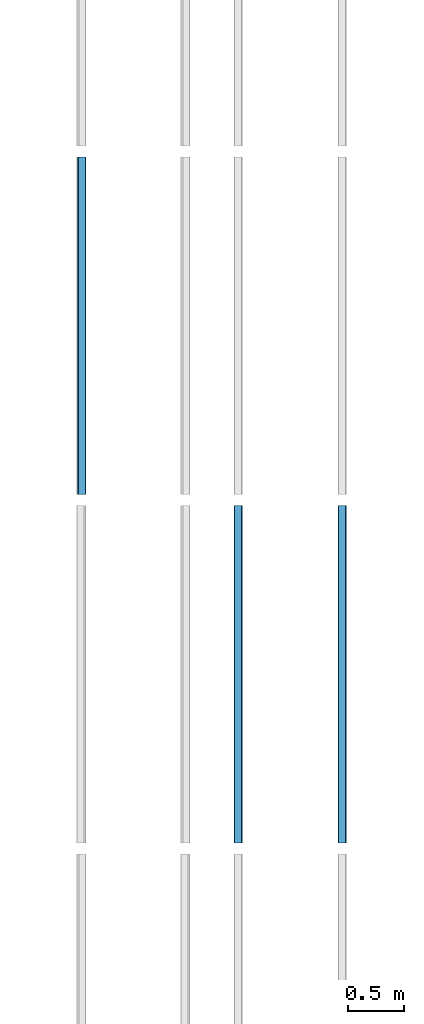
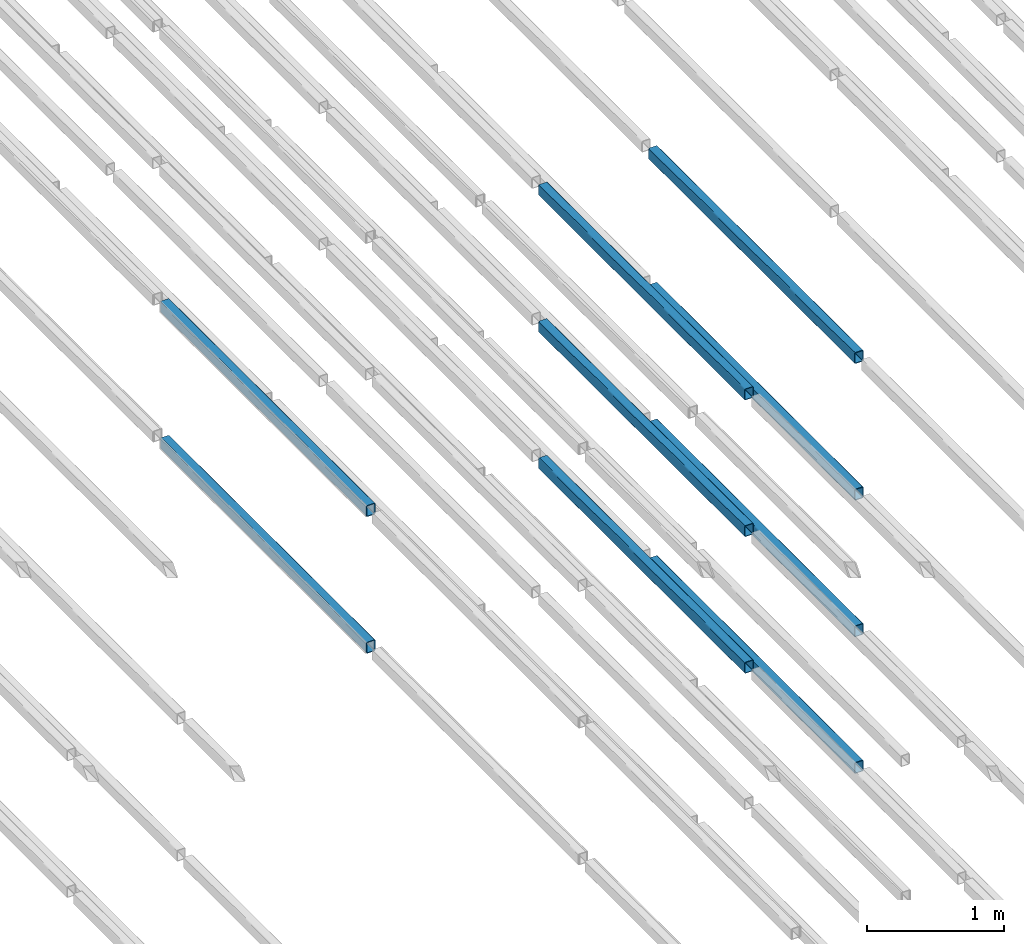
# One storey, part 40 of 290: 9 beams.
"""IFC2X3 building model written with IfcOpenShell, lengths in metres."""

import ifcopenshell
import ifcopenshell.guid

model = None  # the IFC model being written
_history = None  # IfcOwnerHistory: only IFC2X3 demands one
_inside = {}  # id of a spatial element -> (the spatial element, [elements in it])
_under = {}  # id of a project, library or spatial element -> (it, [spatial elements below it])
_declared = {}  # id of a project -> (the project, [libraries it declares])
_typed = {}  # id of a type object -> (the type object, [elements of that type])
_made_of = {}  # id of a material, layer set ... -> (it, [elements and type objects made of it])


def new_model(schema):
    """Start an empty IFC model of exactly this schema.

    Asked for "IFC4X3", IfcOpenShell would pick the latest addendum, in which some entities
    have other attributes; the version numbers below select the first issue.
    IFC2X3 requires an IfcOwnerHistory on every rooted entity: one is made here for all.
    """
    global model, _history
    if schema == "IFC4X3":
        model = ifcopenshell.file(schema_version=(4, 3, 0, 0))
    else:
        model = ifcopenshell.file(schema=schema)
    _inside.clear()
    _under.clear()
    _declared.clear()
    _typed.clear()
    _made_of.clear()
    _history = None
    if model.schema == "IFC2X3":
        org = make("IfcOrganization", Name="unknown")
        user = make(
            "IfcPersonAndOrganization",
            ThePerson=make("IfcPerson", FamilyName="unknown"),
            TheOrganization=org,
        )
        app = make(
            "IfcApplication",
            ApplicationDeveloper=org,
            Version="unknown",
            ApplicationFullName="unknown",
            ApplicationIdentifier="unknown",
        )
        _history = make(
            "IfcOwnerHistory",
            OwningUser=user,
            OwningApplication=app,
            ChangeAction="ADDED",
            CreationDate=0,
        )
    return model


def make(cls, **values):
    """One entity of the class cls with the attributes given. An attribute that is None is left unset."""
    return model.create_entity(
        cls, **{name: value for name, value in values.items() if value is not None}
    )


def entity(cls, *values):
    """Any entity or typed value of the class cls, its attributes in the order of the schema. None: left unset."""
    e = model.create_entity(cls)
    for i, value in enumerate(values):
        if value is not None:
            e[i] = value
    return e


def rooted(cls, **values):
    """An entity with a GlobalId (a new one), such as an element, a storey or a relation."""
    return make(cls, GlobalId=ifcopenshell.guid.new(), OwnerHistory=_history, **values)


def si_unit(unit_type, name, prefix=None):
    """IfcSIUnit, for example si_unit("LENGTHUNIT", "METRE", prefix="MILLI")."""
    return make("IfcSIUnit", UnitType=unit_type, Prefix=prefix, Name=name)


def converted_unit(unit_type, name, factor, base, dimensions=None, offset=None):
    """IfcConversionBasedUnit, such as the inch: factor (a typed value) times the base unit."""
    return make(
        "IfcConversionBasedUnit"
        if offset is None
        else "IfcConversionBasedUnitWithOffset",
        ConversionOffset=offset,
        Dimensions=None
        if dimensions is None
        else entity("IfcDimensionalExponents", *dimensions),
        UnitType=unit_type,
        Name=name,
        ConversionFactor=make(
            "IfcMeasureWithUnit", ValueComponent=factor, UnitComponent=base
        ),
    )


def derived_unit(unit_type, elements):
    """IfcDerivedUnit: a product of units, each with its exponent."""
    return make(
        "IfcDerivedUnit",
        Elements=[
            make("IfcDerivedUnitElement", Unit=unit, Exponent=power)
            for unit, power in elements
        ],
        UnitType=unit_type,
    )


def assignment(units):
    """IfcUnitAssignment: the units of a project."""
    return None if units is None else make("IfcUnitAssignment", Units=units)


def point(xyz):
    """IfcCartesianPoint."""
    return None if xyz is None else make("IfcCartesianPoint", Coordinates=xyz)


def direction(xyz):
    """IfcDirection."""
    return None if xyz is None else make("IfcDirection", DirectionRatios=xyz)


def frame(location, z_axis=None, x_axis=None):
    """IfcAxis2Placement3D, a coordinate frame: its origin and axes. An axis left out is left unset."""
    return make(
        "IfcAxis2Placement3D",
        Location=point(location),
        Axis=direction(z_axis),
        RefDirection=direction(x_axis),
    )


def frame_2d(location, x_axis=None):
    """IfcAxis2Placement2D, a coordinate frame in the plane: its origin and x axis."""
    return make(
        "IfcAxis2Placement2D", Location=point(location), RefDirection=direction(x_axis)
    )


def origin():
    """The frame at (0, 0, 0) with its axes left unset."""
    return frame((0.0, 0.0, 0.0))


def place(relative_to, where):
    """IfcLocalPlacement: puts the frame where relative to a parent placement (None: the world)."""
    return make(
        "IfcLocalPlacement", PlacementRelTo=relative_to, RelativePlacement=where
    )


def context(
    kind, dimensions, precision=None, world=None, true_north=None, identifier=None
):
    """IfcGeometricRepresentationContext, for example the 3D "Model" context."""
    return make(
        "IfcGeometricRepresentationContext",
        ContextIdentifier=identifier,
        ContextType=kind,
        CoordinateSpaceDimension=dimensions,
        Precision=precision,
        WorldCoordinateSystem=world,
        TrueNorth=true_north,
    )


def subcontext(parent, identifier, kind, view, scale=None):
    """IfcGeometricRepresentationSubContext, for example "Body" below "Model"."""
    return make(
        "IfcGeometricRepresentationSubContext",
        ContextIdentifier=identifier,
        ContextType=kind,
        ParentContext=parent,
        TargetScale=scale,
        TargetView=view,
    )


def project(units=None, contexts=None):
    """IfcProject with its units and contexts."""
    return rooted(
        "IfcProject",
        Name="project",
        RepresentationContexts=contexts,
        UnitsInContext=assignment(units),
    )


def spatial(cls, under=None, at=None, **own):
    """A site, building, storey or space (cls), placed at a placement, below another one or the project."""
    s = rooted(cls, ObjectPlacement=at, **own)
    if under is not None:
        _under.setdefault(under.id(), (under, []))[1].append(s)
    return s


def polyline(points):
    """IfcPolyline through the points."""
    return make("IfcPolyline", Points=[point(p) for p in points])


def circle_curve(where, radius):
    """IfcCircle in the frame where."""
    return make("IfcCircle", Position=where, Radius=radius)


def parameter(value):
    """IfcParameterValue: where a trimmed curve begins or ends, as a parameter of its basis curve."""
    return model.create_entity("IfcParameterValue", value)


def trimmed(basis, trim1, trim2, sense, master):
    """IfcTrimmedCurve: the piece of a basis curve between two trims."""
    return make(
        "IfcTrimmedCurve",
        BasisCurve=basis,
        Trim1=trim1,
        Trim2=trim2,
        SenseAgreement=sense,
        MasterRepresentation=master,
    )


def segment(curve, same_sense, transition):
    """IfcCompositeCurveSegment."""
    return make(
        "IfcCompositeCurveSegment",
        Transition=transition,
        SameSense=same_sense,
        ParentCurve=curve,
    )


def composite_curve(segments, self_intersect=None):
    """IfcCompositeCurve: segments joined end to end."""
    return make("IfcCompositeCurve", Segments=segments, SelfIntersect=self_intersect)


def outline(outer, holes=None, kind="AREA"):
    """IfcArbitraryClosedProfileDef: a profile drawn as a closed curve; with holes, ...WithVoids."""
    if holes is None:
        return make("IfcArbitraryClosedProfileDef", ProfileType=kind, OuterCurve=outer)
    return make(
        "IfcArbitraryProfileDefWithVoids",
        ProfileType=kind,
        OuterCurve=outer,
        InnerCurves=holes,
    )


def extrude(swept, where, along, depth):
    """IfcExtrudedAreaSolid: the profile swept, set in the frame where, extruded along a direction by depth."""
    return make(
        "IfcExtrudedAreaSolid",
        SweptArea=swept,
        Position=where,
        ExtrudedDirection=direction(along),
        Depth=depth,
    )


def shape(context_of_items, identifier, shape_type, items):
    """IfcShapeRepresentation: the items that make up one representation, for example the "Body"."""
    return make(
        "IfcShapeRepresentation",
        ContextOfItems=context_of_items,
        RepresentationIdentifier=identifier,
        RepresentationType=shape_type,
        Items=items,
    )


def material(Name=None, Category=None):
    """IfcMaterial."""
    return make("IfcMaterial", Name=Name, Category=Category)


def made_of(thing, what):
    """Note that an element or type object is made of a material, layer set ...; save() writes the relation."""
    if what is not None:
        _made_of.setdefault(what.id(), (what, []))[1].append(thing)
    return thing


def type_object(cls, material=None, **own):
    """A type object (cls), such as IfcWallType, which elements share."""
    return made_of(rooted(cls, **own), material)


def element(
    cls,
    number,
    at=None,
    inside=None,
    cuts=None,
    type_object=None,
    material=None,
    context=None,
    identifier="Body",
    shape_type=None,
    held_by="IfcProductDefinitionShape",
    body=None,
    shapes=None,
    **own,
):
    """One element of the class cls, such as IfcWall. Its Tag is "e" and its number.

    at: its placement. inside: the storey or other place that contains it. cuts: it is an
    opening in that element (IfcRelVoidsElement). A single representation is given by context,
    identifier, shape_type and body (its items); several are given by shapes. held_by: the class
    of the entity that holds the representations. save() writes the other relations.
    """
    e = rooted(cls, Tag="e%d" % number, ObjectPlacement=at, **own)
    if body is not None:
        shapes = [shape(context, identifier, shape_type, body)]
    if shapes is not None:
        e.Representation = make(held_by, Representations=shapes)
    if inside is not None:
        _inside.setdefault(inside.id(), (inside, []))[1].append(e)
    if cuts is not None:
        rooted(
            "IfcRelVoidsElement", RelatingBuildingElement=cuts, RelatedOpeningElement=e
        )
    if type_object is not None:
        _typed.setdefault(type_object.id(), (type_object, []))[1].append(e)
    return made_of(e, material)


def aggregate(whole, parts):
    """IfcRelAggregates: a whole, such as a stair, and the parts it consists of."""
    return rooted("IfcRelAggregates", RelatingObject=whole, RelatedObjects=parts)


def save(model, path):
    """Write the relations noted so far, then the file.

    IfcRelAggregates (storeys below a building ...), IfcRelContainedInSpatialStructure (elements
    in a storey), IfcRelDefinesByType, IfcRelAssociatesMaterial and IfcRelDeclares: one each for
    every whole, place, type object, material and project.
    """
    for whole, parts in _under.values():
        aggregate(whole, parts)
    for where, things in _inside.values():
        rooted(
            "IfcRelContainedInSpatialStructure",
            RelatedElements=things,
            RelatingStructure=where,
        )
    for kind, things in _typed.values():
        rooted("IfcRelDefinesByType", RelatedObjects=things, RelatingType=kind)
    for what, things in _made_of.values():
        rooted("IfcRelAssociatesMaterial", RelatedObjects=things, RelatingMaterial=what)
    for by, libraries in _declared.values():
        rooted("IfcRelDeclares", RelatingContext=by, RelatedDefinitions=libraries)
    model.write(path)


model = new_model("IFC2X3")

# Units and contexts
model_context = context("Model", 3, precision=1e-05, world=origin(), true_north=direction((6.12303176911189e-17, 1.0)))
body_context = subcontext(model_context, "Body", "Model", "MODEL_VIEW")
ifc_project = project(units=[si_unit("LENGTHUNIT", "METRE"), si_unit("AREAUNIT", "SQUARE_METRE"), si_unit("VOLUMEUNIT", "CUBIC_METRE"), converted_unit("PLANEANGLEUNIT", "DEGREE", entity("IfcRatioMeasure", 0.0174532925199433), si_unit("PLANEANGLEUNIT", "RADIAN"), dimensions=[0, 0, 0, 0, 0, 0, 0]), si_unit("MASSUNIT", "GRAM", prefix="KILO"), derived_unit("MASSDENSITYUNIT", [(si_unit("MASSUNIT", "GRAM", prefix="KILO"), 1), (si_unit("LENGTHUNIT", "METRE"), -3)]), derived_unit("MOMENTOFINERTIAUNIT", [(si_unit("LENGTHUNIT", "METRE"), 4)]), si_unit("TIMEUNIT", "SECOND"), si_unit("FREQUENCYUNIT", "HERTZ"), si_unit("THERMODYNAMICTEMPERATUREUNIT", "DEGREE_CELSIUS"), derived_unit("THERMALTRANSMITTANCEUNIT", [(si_unit("MASSUNIT", "GRAM", prefix="KILO"), 1), (si_unit("THERMODYNAMICTEMPERATUREUNIT", "KELVIN"), -1), (si_unit("TIMEUNIT", "SECOND"), -3)]), derived_unit("VOLUMETRICFLOWRATEUNIT", [(si_unit("LENGTHUNIT", "METRE"), 3), (si_unit("TIMEUNIT", "SECOND"), -1)]), si_unit("ELECTRICCURRENTUNIT", "AMPERE"), si_unit("ELECTRICVOLTAGEUNIT", "VOLT"), si_unit("POWERUNIT", "WATT"), si_unit("FORCEUNIT", "NEWTON", prefix="KILO"), si_unit("ILLUMINANCEUNIT", "LUX"), si_unit("LUMINOUSFLUXUNIT", "LUMEN"), si_unit("LUMINOUSINTENSITYUNIT", "CANDELA"), derived_unit("USERDEFINED", [(si_unit("MASSUNIT", "GRAM", prefix="KILO"), -1), (si_unit("LENGTHUNIT", "METRE"), -2), (si_unit("TIMEUNIT", "SECOND"), 3), (si_unit("LUMINOUSFLUXUNIT", "LUMEN"), 1)]), derived_unit("LINEARVELOCITYUNIT", [(si_unit("LENGTHUNIT", "METRE"), 1), (si_unit("TIMEUNIT", "SECOND"), -1)]), si_unit("PRESSUREUNIT", "PASCAL"), derived_unit("USERDEFINED", [(si_unit("LENGTHUNIT", "METRE"), -2), (si_unit("MASSUNIT", "GRAM", prefix="KILO"), 1), (si_unit("TIMEUNIT", "SECOND"), -2)]), derived_unit("LINEARFORCEUNIT", [(si_unit("MASSUNIT", "GRAM", prefix="KILO"), 1), (si_unit("LENGTHUNIT", "METRE"), 1), (si_unit("TIMEUNIT", "SECOND"), -2), (si_unit("LENGTHUNIT", "METRE"), -1)]), derived_unit("PLANARFORCEUNIT", [(si_unit("MASSUNIT", "GRAM", prefix="KILO"), 1), (si_unit("LENGTHUNIT", "METRE"), 1), (si_unit("TIMEUNIT", "SECOND"), -2), (si_unit("LENGTHUNIT", "METRE"), -2)])], contexts=[model_context])

# Site, building, storey
site_placement = place(None, origin())
site = spatial("IfcSite", under=ifc_project, at=site_placement, Name="Default", CompositionType="ELEMENT")
building_placement = place(site_placement, origin())
building = spatial("IfcBuilding", under=site, at=building_placement, CompositionType="ELEMENT")
storey_placement = place(building_placement, frame((0.0, 0.0, 4.0)))
storey = spatial("IfcBuildingStorey", under=building, at=storey_placement, Name="01_OG", CompositionType="ELEMENT", Elevation=4.0)

# Beams
ifc_material = material(Name="Metall - Baustahl S235 blau")
beam_type = type_object("IfcBeamType", Name="RHS Träger (EN 10219-2):RHS 100 x 75 x 5", PredefinedType="NOTDEFINED")
beam_1_placement = place(storey_placement, frame((-200.715111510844, 30.248088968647, 0.0150000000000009), z_axis=(0.0, 0.0, 1.0), x_axis=(0.0, 1.0, 0.0)))
element("IfcBeam", 1, at=beam_1_placement, inside=storey, type_object=beam_type, material=ifc_material, Name="RHS Träger (EN 10219-2):RHS 100 x 75 x 5", ObjectType="RHS Träger (EN 10219-2):RHS 100 x 75 x 5", context=body_context, shape_type="SweptSolid", body=[
    extrude(outline(composite_curve([segment(trimmed(circle_curve(frame_2d((-0.0274999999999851, -0.0400000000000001), x_axis=(1.0, 0.0)), 0.01), [parameter(180.0)], [parameter(270.0)], True, "PARAMETER"), True, "CONTINUOUS"), segment(polyline([(-0.0274999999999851, -0.05), (0.0274999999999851, -0.05)]), True, "CONTINUOUS"), segment(trimmed(circle_curve(frame_2d((0.0274999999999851, -0.0400000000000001), x_axis=(1.0, 0.0)), 0.01), [parameter(270.0)], [parameter(5.08888749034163e-14)], True, "PARAMETER"), True, "CONTINUOUS"), segment(polyline([(0.0375000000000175, -0.0400000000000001), (0.0375000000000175, 0.0400000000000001)]), True, "CONTINUOUS"), segment(trimmed(circle_curve(frame_2d((0.0274999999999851, 0.0400000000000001), x_axis=(1.0, 0.0)), 0.01), [parameter(360.0)], [parameter(89.9999999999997)], True, "PARAMETER"), True, "CONTINUOUS"), segment(polyline([(0.0274999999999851, 0.05), (-0.0274999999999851, 0.05)]), True, "CONTINUOUS"), segment(trimmed(circle_curve(frame_2d((-0.0274999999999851, 0.0400000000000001), x_axis=(1.0, 0.0)), 0.01), [parameter(90.0000000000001)], [parameter(180.0)], True, "PARAMETER"), True, "CONTINUOUS"), segment(polyline([(-0.0374999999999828, 0.0400000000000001), (-0.0374999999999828, -0.0400000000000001)]), True, "CONTINUOUS")], self_intersect=False), holes=[composite_curve([segment(polyline([(0.0274999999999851, -0.0450000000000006), (-0.0274999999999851, -0.0450000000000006)]), True, "CONTINUOUS"), segment(trimmed(circle_curve(frame_2d((-0.0274999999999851, -0.0400000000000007), x_axis=(1.0, 0.0)), 0.005), [parameter(180.0)], [parameter(270.0)], True, "PARAMETER"), False, "CONTINUOUS"), segment(polyline([(-0.0325000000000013, -0.0400000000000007), (-0.0325000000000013, 0.039999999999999)]), True, "CONTINUOUS"), segment(trimmed(circle_curve(frame_2d((-0.0274999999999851, 0.039999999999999), x_axis=(1.0, 0.0)), 0.005), [parameter(90.0000000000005)], [parameter(180.0)], True, "PARAMETER"), False, "CONTINUOUS"), segment(polyline([(-0.0274999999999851, 0.044999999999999), (0.0274999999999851, 0.044999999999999)]), True, "CONTINUOUS"), segment(trimmed(circle_curve(frame_2d((0.0274999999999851, 0.039999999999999), x_axis=(1.0, 0.0)), 0.005), [parameter(0.0)], [parameter(90.0000000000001)], True, "PARAMETER"), False, "CONTINUOUS"), segment(polyline([(0.0325000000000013, 0.039999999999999), (0.0325000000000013, -0.0400000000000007)]), True, "CONTINUOUS"), segment(trimmed(circle_curve(frame_2d((0.0274999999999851, -0.0400000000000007), x_axis=(1.0, 0.0)), 0.005), [parameter(270.0)], [parameter(4.07110999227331e-13)], True, "PARAMETER"), False, "CONTINUOUS")], self_intersect=False)]), frame((0.000100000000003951, 0.0375000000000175, -0.0500000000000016), z_axis=(1.0, 0.0, 0.0), x_axis=(0.0, -1.0, 0.0)), (0.0, 0.0, 1.0), 2.9998),
])
beam_2_placement = place(storey_placement, frame((-200.715111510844, 30.248088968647, 1.23), z_axis=(0.0, 0.0, 1.0), x_axis=(0.0, 1.0, 0.0)))
element("IfcBeam", 2, at=beam_2_placement, inside=storey, type_object=beam_type, material=ifc_material, Name="RHS Träger (EN 10219-2):RHS 100 x 75 x 5", ObjectType="RHS Träger (EN 10219-2):RHS 100 x 75 x 5", context=body_context, shape_type="SweptSolid", body=[
    extrude(outline(composite_curve([segment(trimmed(circle_curve(frame_2d((-0.0274999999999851, -0.0399999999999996), x_axis=(1.0, 0.0)), 0.01), [parameter(180.0)], [parameter(270.0)], True, "PARAMETER"), True, "CONTINUOUS"), segment(polyline([(-0.0274999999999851, -0.0499999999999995), (0.0274999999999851, -0.0499999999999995)]), True, "CONTINUOUS"), segment(trimmed(circle_curve(frame_2d((0.0274999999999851, -0.0399999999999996), x_axis=(1.0, 0.0)), 0.01), [parameter(270.0)], [parameter(5.08888749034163e-14)], True, "PARAMETER"), True, "CONTINUOUS"), segment(polyline([(0.0375000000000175, -0.0399999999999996), (0.0375000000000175, 0.0399999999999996)]), True, "CONTINUOUS"), segment(trimmed(circle_curve(frame_2d((0.0274999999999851, 0.0399999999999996), x_axis=(1.0, 0.0)), 0.01), [parameter(360.0)], [parameter(89.9999999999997)], True, "PARAMETER"), True, "CONTINUOUS"), segment(polyline([(0.0274999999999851, 0.0500000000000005), (-0.0274999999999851, 0.0500000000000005)]), True, "CONTINUOUS"), segment(trimmed(circle_curve(frame_2d((-0.0274999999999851, 0.0399999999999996), x_axis=(1.0, 0.0)), 0.01), [parameter(90.0000000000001)], [parameter(180.0)], True, "PARAMETER"), True, "CONTINUOUS"), segment(polyline([(-0.0374999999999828, 0.0399999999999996), (-0.0374999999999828, -0.0399999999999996)]), True, "CONTINUOUS")], self_intersect=False), holes=[composite_curve([segment(polyline([(0.0274999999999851, -0.0450000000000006), (-0.0274999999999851, -0.0450000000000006)]), True, "CONTINUOUS"), segment(trimmed(circle_curve(frame_2d((-0.0274999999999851, -0.0400000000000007), x_axis=(1.0, 0.0)), 0.005), [parameter(180.0)], [parameter(270.0)], True, "PARAMETER"), False, "CONTINUOUS"), segment(polyline([(-0.0325000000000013, -0.0400000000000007), (-0.0325000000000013, 0.0399999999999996)]), True, "CONTINUOUS"), segment(trimmed(circle_curve(frame_2d((-0.0274999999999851, 0.0399999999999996), x_axis=(1.0, 0.0)), 0.005), [parameter(90.0000000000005)], [parameter(180.0)], True, "PARAMETER"), False, "CONTINUOUS"), segment(polyline([(-0.0274999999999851, 0.0449999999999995), (0.0274999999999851, 0.0449999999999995)]), True, "CONTINUOUS"), segment(trimmed(circle_curve(frame_2d((0.0274999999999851, 0.0399999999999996), x_axis=(1.0, 0.0)), 0.005), [parameter(0.0)], [parameter(90.0000000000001)], True, "PARAMETER"), False, "CONTINUOUS"), segment(polyline([(0.0325000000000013, 0.0399999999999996), (0.0325000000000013, -0.0400000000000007)]), True, "CONTINUOUS"), segment(trimmed(circle_curve(frame_2d((0.0274999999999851, -0.0400000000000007), x_axis=(1.0, 0.0)), 0.005), [parameter(270.0)], [parameter(4.07110999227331e-13)], True, "PARAMETER"), False, "CONTINUOUS")], self_intersect=False)]), frame((0.000100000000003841, 0.0375000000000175, -0.0500000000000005), z_axis=(1.0, 0.0, 0.0), x_axis=(0.0, -1.0, 0.0)), (0.0, 0.0, 1.0), 2.9998),
])
beam_3_placement = place(storey_placement, frame((-200.715111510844, 30.248088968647, 2.445), z_axis=(0.0, 0.0, 1.0), x_axis=(0.0, 1.0, 0.0)))
element("IfcBeam", 3, at=beam_3_placement, inside=storey, type_object=beam_type, material=ifc_material, Name="RHS Träger (EN 10219-2):RHS 100 x 75 x 5", ObjectType="RHS Träger (EN 10219-2):RHS 100 x 75 x 5", context=body_context, shape_type="SweptSolid", body=[
    extrude(outline(composite_curve([segment(trimmed(circle_curve(frame_2d((-0.0274999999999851, -0.0399999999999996), x_axis=(1.0, 0.0)), 0.01), [parameter(180.0)], [parameter(270.0)], True, "PARAMETER"), True, "CONTINUOUS"), segment(polyline([(-0.0274999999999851, -0.0499999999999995), (0.0274999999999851, -0.0499999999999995)]), True, "CONTINUOUS"), segment(trimmed(circle_curve(frame_2d((0.0274999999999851, -0.0399999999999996), x_axis=(1.0, 0.0)), 0.01), [parameter(270.0)], [parameter(5.08888749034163e-14)], True, "PARAMETER"), True, "CONTINUOUS"), segment(polyline([(0.0375000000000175, -0.0399999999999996), (0.0375000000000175, 0.0399999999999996)]), True, "CONTINUOUS"), segment(trimmed(circle_curve(frame_2d((0.0274999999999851, 0.0399999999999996), x_axis=(1.0, 0.0)), 0.01), [parameter(360.0)], [parameter(89.9999999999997)], True, "PARAMETER"), True, "CONTINUOUS"), segment(polyline([(0.0274999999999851, 0.0500000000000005), (-0.0274999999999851, 0.0500000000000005)]), True, "CONTINUOUS"), segment(trimmed(circle_curve(frame_2d((-0.0274999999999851, 0.0399999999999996), x_axis=(1.0, 0.0)), 0.01), [parameter(90.0000000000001)], [parameter(180.0)], True, "PARAMETER"), True, "CONTINUOUS"), segment(polyline([(-0.0374999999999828, 0.0399999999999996), (-0.0374999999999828, -0.0399999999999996)]), True, "CONTINUOUS")], self_intersect=False), holes=[composite_curve([segment(polyline([(0.0274999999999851, -0.0450000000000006), (-0.0274999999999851, -0.0450000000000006)]), True, "CONTINUOUS"), segment(trimmed(circle_curve(frame_2d((-0.0274999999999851, -0.0400000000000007), x_axis=(1.0, 0.0)), 0.005), [parameter(180.0)], [parameter(270.0)], True, "PARAMETER"), False, "CONTINUOUS"), segment(polyline([(-0.0325000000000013, -0.0400000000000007), (-0.0325000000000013, 0.0399999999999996)]), True, "CONTINUOUS"), segment(trimmed(circle_curve(frame_2d((-0.0274999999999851, 0.0399999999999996), x_axis=(1.0, 0.0)), 0.005), [parameter(90.0000000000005)], [parameter(180.0)], True, "PARAMETER"), False, "CONTINUOUS"), segment(polyline([(-0.0274999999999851, 0.0449999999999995), (0.0274999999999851, 0.0449999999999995)]), True, "CONTINUOUS"), segment(trimmed(circle_curve(frame_2d((0.0274999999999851, 0.0399999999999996), x_axis=(1.0, 0.0)), 0.005), [parameter(0.0)], [parameter(90.0000000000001)], True, "PARAMETER"), False, "CONTINUOUS"), segment(polyline([(0.0325000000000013, 0.0399999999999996), (0.0325000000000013, -0.0400000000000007)]), True, "CONTINUOUS"), segment(trimmed(circle_curve(frame_2d((0.0274999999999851, -0.0400000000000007), x_axis=(1.0, 0.0)), 0.005), [parameter(270.0)], [parameter(4.07110999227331e-13)], True, "PARAMETER"), False, "CONTINUOUS")], self_intersect=False)]), frame((0.000100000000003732, 0.0375000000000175, -0.0500000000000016), z_axis=(1.0, 0.0, 0.0), x_axis=(0.0, -1.0, 0.0)), (0.0, 0.0, 1.0), 2.9998),
])
beam_4_placement = place(storey_placement, frame((-199.865111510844, 30.248088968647, -1.2), z_axis=(0.0, 0.0, 1.0), x_axis=(0.0, 1.0, 0.0)))
element("IfcBeam", 4, at=beam_4_placement, inside=storey, type_object=beam_type, material=ifc_material, Name="RHS Träger (EN 10219-2):RHS 100 x 75 x 5", ObjectType="RHS Träger (EN 10219-2):RHS 100 x 75 x 5", context=body_context, shape_type="SweptSolid", body=[
    extrude(outline(composite_curve([segment(polyline([(-0.0400000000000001, -0.0374999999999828), (0.0400000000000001, -0.0374999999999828)]), True, "CONTINUOUS"), segment(trimmed(circle_curve(frame_2d((0.0400000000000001, -0.0274999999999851), x_axis=(0.0, 1.0)), 0.01), [parameter(180.0)], [parameter(270.0)], True, "PARAMETER"), True, "CONTINUOUS"), segment(polyline([(0.05, -0.0274999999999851), (0.05, 0.0274999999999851)]), True, "CONTINUOUS"), segment(trimmed(circle_curve(frame_2d((0.0400000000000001, 0.0274999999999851), x_axis=(0.0, 1.0)), 0.01), [parameter(270.0)], [parameter(4.07110999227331e-13)], True, "PARAMETER"), True, "CONTINUOUS"), segment(polyline([(0.0400000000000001, 0.0375000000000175), (-0.0400000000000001, 0.0375000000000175)]), True, "CONTINUOUS"), segment(trimmed(circle_curve(frame_2d((-0.0400000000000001, 0.0274999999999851), x_axis=(0.0, 1.0)), 0.01), [parameter(360.0)], [parameter(90.0000000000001)], True, "PARAMETER"), True, "CONTINUOUS"), segment(polyline([(-0.05, 0.0274999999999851), (-0.05, -0.0274999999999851)]), True, "CONTINUOUS"), segment(trimmed(circle_curve(frame_2d((-0.0400000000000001, -0.0274999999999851), x_axis=(0.0, 1.0)), 0.01), [parameter(90.0000000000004)], [parameter(180.0)], True, "PARAMETER"), True, "CONTINUOUS")], self_intersect=False), holes=[composite_curve([segment(trimmed(circle_curve(frame_2d((-0.0400000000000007, 0.0274999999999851), x_axis=(0.0, 1.0)), 0.005), [parameter(360.0)], [parameter(89.9999999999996)], True, "PARAMETER"), False, "CONTINUOUS"), segment(polyline([(-0.0400000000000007, 0.0325000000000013), (0.039999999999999, 0.0325000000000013)]), True, "CONTINUOUS"), segment(trimmed(circle_curve(frame_2d((0.039999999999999, 0.0274999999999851), x_axis=(0.0, 1.0)), 0.005), [parameter(270.0)], [parameter(0.0)], True, "PARAMETER"), False, "CONTINUOUS"), segment(polyline([(0.044999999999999, 0.0274999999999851), (0.044999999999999, -0.0274999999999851)]), True, "CONTINUOUS"), segment(trimmed(circle_curve(frame_2d((0.039999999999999, -0.0274999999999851), x_axis=(0.0, 1.0)), 0.005), [parameter(180.0)], [parameter(269.999999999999)], True, "PARAMETER"), False, "CONTINUOUS"), segment(polyline([(0.039999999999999, -0.0325000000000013), (-0.0400000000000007, -0.0325000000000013)]), True, "CONTINUOUS"), segment(trimmed(circle_curve(frame_2d((-0.0400000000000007, -0.0274999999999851), x_axis=(0.0, 1.0)), 0.005), [parameter(90.0000000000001)], [parameter(180.0)], True, "PARAMETER"), False, "CONTINUOUS"), segment(polyline([(-0.0450000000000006, -0.0274999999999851), (-0.0450000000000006, 0.0274999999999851)]), True, "CONTINUOUS")], self_intersect=False)]), frame((0.000100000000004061, -0.0375000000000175, -0.0500000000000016), z_axis=(1.0, 0.0, 0.0), x_axis=(0.0, 0.0, -1.0)), (0.0, 0.0, 1.0), 2.9998),
])
beam_5_placement = place(storey_placement, frame((-199.865111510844, 30.248088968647, 0.0150000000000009), z_axis=(0.0, 0.0, 1.0), x_axis=(0.0, 1.0, 0.0)))
element("IfcBeam", 5, at=beam_5_placement, inside=storey, type_object=beam_type, material=ifc_material, Name="RHS Träger (EN 10219-2):RHS 100 x 75 x 5", ObjectType="RHS Träger (EN 10219-2):RHS 100 x 75 x 5", context=body_context, shape_type="SweptSolid", body=[
    extrude(outline(composite_curve([segment(polyline([(-0.0400000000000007, -0.0374999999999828), (0.0399999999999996, -0.0374999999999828)]), True, "CONTINUOUS"), segment(trimmed(circle_curve(frame_2d((0.0399999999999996, -0.0274999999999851), x_axis=(0.0, 1.0)), 0.01), [parameter(180.0)], [parameter(270.0)], True, "PARAMETER"), True, "CONTINUOUS"), segment(polyline([(0.0499999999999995, -0.0274999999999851), (0.0499999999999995, 0.0274999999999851)]), True, "CONTINUOUS"), segment(trimmed(circle_curve(frame_2d((0.0399999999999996, 0.0274999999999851), x_axis=(0.0, 1.0)), 0.01), [parameter(270.0)], [parameter(4.07110999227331e-13)], True, "PARAMETER"), True, "CONTINUOUS"), segment(polyline([(0.0399999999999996, 0.0375000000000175), (-0.0400000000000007, 0.0375000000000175)]), True, "CONTINUOUS"), segment(trimmed(circle_curve(frame_2d((-0.0400000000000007, 0.0274999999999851), x_axis=(0.0, 1.0)), 0.01), [parameter(360.0)], [parameter(90.0000000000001)], True, "PARAMETER"), True, "CONTINUOUS"), segment(polyline([(-0.0500000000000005, 0.0274999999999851), (-0.0500000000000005, -0.0274999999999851)]), True, "CONTINUOUS"), segment(trimmed(circle_curve(frame_2d((-0.0400000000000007, -0.0274999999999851), x_axis=(0.0, 1.0)), 0.01), [parameter(90.0000000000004)], [parameter(180.0)], True, "PARAMETER"), True, "CONTINUOUS")], self_intersect=False), holes=[composite_curve([segment(trimmed(circle_curve(frame_2d((-0.0400000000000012, 0.0274999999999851), x_axis=(0.0, 1.0)), 0.005), [parameter(360.0)], [parameter(89.9999999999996)], True, "PARAMETER"), False, "CONTINUOUS"), segment(polyline([(-0.0400000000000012, 0.0325000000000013), (0.0399999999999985, 0.0325000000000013)]), True, "CONTINUOUS"), segment(trimmed(circle_curve(frame_2d((0.0399999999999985, 0.0274999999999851), x_axis=(0.0, 1.0)), 0.005), [parameter(270.0)], [parameter(0.0)], True, "PARAMETER"), False, "CONTINUOUS"), segment(polyline([(0.0449999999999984, 0.0274999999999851), (0.0449999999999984, -0.0274999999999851)]), True, "CONTINUOUS"), segment(trimmed(circle_curve(frame_2d((0.0399999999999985, -0.0274999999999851), x_axis=(0.0, 1.0)), 0.005), [parameter(180.0)], [parameter(269.999999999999)], True, "PARAMETER"), False, "CONTINUOUS"), segment(polyline([(0.0399999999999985, -0.0325000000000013), (-0.0400000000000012, -0.0325000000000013)]), True, "CONTINUOUS"), segment(trimmed(circle_curve(frame_2d((-0.0400000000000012, -0.0274999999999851), x_axis=(0.0, 1.0)), 0.005), [parameter(90.0000000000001)], [parameter(180.0)], True, "PARAMETER"), False, "CONTINUOUS"), segment(polyline([(-0.0450000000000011, -0.0274999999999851), (-0.0450000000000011, 0.0274999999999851)]), True, "CONTINUOUS")], self_intersect=False)]), frame((0.000100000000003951, -0.0375000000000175, -0.0500000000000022), z_axis=(1.0, 0.0, 0.0), x_axis=(0.0, 0.0, -1.0)), (0.0, 0.0, 1.0), 2.9998),
])
beam_6_placement = place(storey_placement, frame((-199.865111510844, 30.248088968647, 1.23), z_axis=(0.0, 0.0, 1.0), x_axis=(0.0, 1.0, 0.0)))
element("IfcBeam", 6, at=beam_6_placement, inside=storey, type_object=beam_type, material=ifc_material, Name="RHS Träger (EN 10219-2):RHS 100 x 75 x 5", ObjectType="RHS Träger (EN 10219-2):RHS 100 x 75 x 5", context=body_context, shape_type="SweptSolid", body=[
    extrude(outline(composite_curve([segment(polyline([(-0.0399999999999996, -0.0374999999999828), (0.0399999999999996, -0.0374999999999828)]), True, "CONTINUOUS"), segment(trimmed(circle_curve(frame_2d((0.0399999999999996, -0.0274999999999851), x_axis=(0.0, 1.0)), 0.01), [parameter(180.0)], [parameter(270.0)], True, "PARAMETER"), True, "CONTINUOUS"), segment(polyline([(0.0500000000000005, -0.0274999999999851), (0.0500000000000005, 0.0274999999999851)]), True, "CONTINUOUS"), segment(trimmed(circle_curve(frame_2d((0.0399999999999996, 0.0274999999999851), x_axis=(0.0, 1.0)), 0.01), [parameter(270.0)], [parameter(4.07110999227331e-13)], True, "PARAMETER"), True, "CONTINUOUS"), segment(polyline([(0.0399999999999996, 0.0375000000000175), (-0.0399999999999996, 0.0375000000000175)]), True, "CONTINUOUS"), segment(trimmed(circle_curve(frame_2d((-0.0399999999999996, 0.0274999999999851), x_axis=(0.0, 1.0)), 0.01), [parameter(360.0)], [parameter(90.0000000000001)], True, "PARAMETER"), True, "CONTINUOUS"), segment(polyline([(-0.0499999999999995, 0.0274999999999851), (-0.0499999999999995, -0.0274999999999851)]), True, "CONTINUOUS"), segment(trimmed(circle_curve(frame_2d((-0.0399999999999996, -0.0274999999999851), x_axis=(0.0, 1.0)), 0.01), [parameter(90.0000000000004)], [parameter(180.0)], True, "PARAMETER"), True, "CONTINUOUS")], self_intersect=False), holes=[composite_curve([segment(trimmed(circle_curve(frame_2d((-0.0400000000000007, 0.0274999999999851), x_axis=(0.0, 1.0)), 0.005), [parameter(360.0)], [parameter(89.9999999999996)], True, "PARAMETER"), False, "CONTINUOUS"), segment(polyline([(-0.0400000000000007, 0.0325000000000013), (0.0399999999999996, 0.0325000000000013)]), True, "CONTINUOUS"), segment(trimmed(circle_curve(frame_2d((0.0399999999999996, 0.0274999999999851), x_axis=(0.0, 1.0)), 0.005), [parameter(270.0)], [parameter(0.0)], True, "PARAMETER"), False, "CONTINUOUS"), segment(polyline([(0.0449999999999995, 0.0274999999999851), (0.0449999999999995, -0.0274999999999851)]), True, "CONTINUOUS"), segment(trimmed(circle_curve(frame_2d((0.0399999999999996, -0.0274999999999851), x_axis=(0.0, 1.0)), 0.005), [parameter(180.0)], [parameter(269.999999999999)], True, "PARAMETER"), False, "CONTINUOUS"), segment(polyline([(0.0399999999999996, -0.0325000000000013), (-0.0400000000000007, -0.0325000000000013)]), True, "CONTINUOUS"), segment(trimmed(circle_curve(frame_2d((-0.0400000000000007, -0.0274999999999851), x_axis=(0.0, 1.0)), 0.005), [parameter(90.0000000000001)], [parameter(180.0)], True, "PARAMETER"), False, "CONTINUOUS"), segment(polyline([(-0.0450000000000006, -0.0274999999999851), (-0.0450000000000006, 0.0274999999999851)]), True, "CONTINUOUS")], self_intersect=False)]), frame((0.000100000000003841, -0.0375000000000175, -0.0500000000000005), z_axis=(1.0, 0.0, 0.0), x_axis=(0.0, 0.0, -1.0)), (0.0, 0.0, 1.0), 2.9998),
])
beam_7_placement = place(storey_placement, frame((-199.865111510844, 30.248088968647, 2.445), z_axis=(0.0, 0.0, 1.0), x_axis=(0.0, 1.0, 0.0)))
element("IfcBeam", 7, at=beam_7_placement, inside=storey, type_object=beam_type, material=ifc_material, Name="RHS Träger (EN 10219-2):RHS 100 x 75 x 5", ObjectType="RHS Träger (EN 10219-2):RHS 100 x 75 x 5", context=body_context, shape_type="SweptSolid", body=[
    extrude(outline(composite_curve([segment(polyline([(-0.0399999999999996, -0.0374999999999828), (0.0399999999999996, -0.0374999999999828)]), True, "CONTINUOUS"), segment(trimmed(circle_curve(frame_2d((0.0399999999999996, -0.0274999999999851), x_axis=(0.0, 1.0)), 0.01), [parameter(180.0)], [parameter(270.0)], True, "PARAMETER"), True, "CONTINUOUS"), segment(polyline([(0.0500000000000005, -0.0274999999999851), (0.0500000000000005, 0.0274999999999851)]), True, "CONTINUOUS"), segment(trimmed(circle_curve(frame_2d((0.0399999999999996, 0.0274999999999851), x_axis=(0.0, 1.0)), 0.01), [parameter(270.0)], [parameter(4.07110999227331e-13)], True, "PARAMETER"), True, "CONTINUOUS"), segment(polyline([(0.0399999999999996, 0.0375000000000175), (-0.0399999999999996, 0.0375000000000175)]), True, "CONTINUOUS"), segment(trimmed(circle_curve(frame_2d((-0.0399999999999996, 0.0274999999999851), x_axis=(0.0, 1.0)), 0.01), [parameter(360.0)], [parameter(90.0000000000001)], True, "PARAMETER"), True, "CONTINUOUS"), segment(polyline([(-0.0499999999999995, 0.0274999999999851), (-0.0499999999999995, -0.0274999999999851)]), True, "CONTINUOUS"), segment(trimmed(circle_curve(frame_2d((-0.0399999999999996, -0.0274999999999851), x_axis=(0.0, 1.0)), 0.01), [parameter(90.0000000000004)], [parameter(180.0)], True, "PARAMETER"), True, "CONTINUOUS")], self_intersect=False), holes=[composite_curve([segment(trimmed(circle_curve(frame_2d((-0.0400000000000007, 0.0274999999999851), x_axis=(0.0, 1.0)), 0.005), [parameter(360.0)], [parameter(89.9999999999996)], True, "PARAMETER"), False, "CONTINUOUS"), segment(polyline([(-0.0400000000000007, 0.0325000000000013), (0.0399999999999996, 0.0325000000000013)]), True, "CONTINUOUS"), segment(trimmed(circle_curve(frame_2d((0.0399999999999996, 0.0274999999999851), x_axis=(0.0, 1.0)), 0.005), [parameter(270.0)], [parameter(0.0)], True, "PARAMETER"), False, "CONTINUOUS"), segment(polyline([(0.0449999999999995, 0.0274999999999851), (0.0449999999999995, -0.0274999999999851)]), True, "CONTINUOUS"), segment(trimmed(circle_curve(frame_2d((0.0399999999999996, -0.0274999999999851), x_axis=(0.0, 1.0)), 0.005), [parameter(180.0)], [parameter(269.999999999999)], True, "PARAMETER"), False, "CONTINUOUS"), segment(polyline([(0.0399999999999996, -0.0325000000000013), (-0.0400000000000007, -0.0325000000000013)]), True, "CONTINUOUS"), segment(trimmed(circle_curve(frame_2d((-0.0400000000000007, -0.0274999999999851), x_axis=(0.0, 1.0)), 0.005), [parameter(90.0000000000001)], [parameter(180.0)], True, "PARAMETER"), False, "CONTINUOUS"), segment(polyline([(-0.0450000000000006, -0.0274999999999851), (-0.0450000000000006, 0.0274999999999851)]), True, "CONTINUOUS")], self_intersect=False)]), frame((0.000100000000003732, -0.0375000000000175, -0.0500000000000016), z_axis=(1.0, 0.0, 0.0), x_axis=(0.0, 0.0, -1.0)), (0.0, 0.0, 1.0), 2.9998),
])
beam_8_placement = place(storey_placement, frame((-202.105111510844, 33.348088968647, -1.2), z_axis=(0.0, 0.0, 1.0), x_axis=(0.0, 1.0, 0.0)))
element("IfcBeam", 8, at=beam_8_placement, inside=storey, type_object=beam_type, material=ifc_material, Name="RHS Träger (EN 10219-2):RHS 100 x 75 x 5", ObjectType="RHS Träger (EN 10219-2):RHS 100 x 75 x 5", context=body_context, shape_type="SweptSolid", body=[
    extrude(outline(composite_curve([segment(trimmed(circle_curve(frame_2d((-0.0274999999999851, -0.0400000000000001), x_axis=(1.0, 0.0)), 0.01), [parameter(180.0)], [parameter(270.0)], True, "PARAMETER"), True, "CONTINUOUS"), segment(polyline([(-0.0274999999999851, -0.05), (0.0274999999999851, -0.05)]), True, "CONTINUOUS"), segment(trimmed(circle_curve(frame_2d((0.0274999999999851, -0.0400000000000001), x_axis=(1.0, 0.0)), 0.01), [parameter(270.0)], [parameter(5.08888749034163e-14)], True, "PARAMETER"), True, "CONTINUOUS"), segment(polyline([(0.0375000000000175, -0.0400000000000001), (0.0375000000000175, 0.0400000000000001)]), True, "CONTINUOUS"), segment(trimmed(circle_curve(frame_2d((0.0274999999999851, 0.0400000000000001), x_axis=(1.0, 0.0)), 0.01), [parameter(360.0)], [parameter(89.9999999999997)], True, "PARAMETER"), True, "CONTINUOUS"), segment(polyline([(0.0274999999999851, 0.05), (-0.0274999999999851, 0.05)]), True, "CONTINUOUS"), segment(trimmed(circle_curve(frame_2d((-0.0274999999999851, 0.0400000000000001), x_axis=(1.0, 0.0)), 0.01), [parameter(90.0000000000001)], [parameter(180.0)], True, "PARAMETER"), True, "CONTINUOUS"), segment(polyline([(-0.0374999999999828, 0.0400000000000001), (-0.0374999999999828, -0.0400000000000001)]), True, "CONTINUOUS")], self_intersect=False), holes=[composite_curve([segment(polyline([(0.0274999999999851, -0.0450000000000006), (-0.0274999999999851, -0.0450000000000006)]), True, "CONTINUOUS"), segment(trimmed(circle_curve(frame_2d((-0.0274999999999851, -0.0400000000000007), x_axis=(1.0, 0.0)), 0.005), [parameter(180.0)], [parameter(270.0)], True, "PARAMETER"), False, "CONTINUOUS"), segment(polyline([(-0.0325000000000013, -0.0400000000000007), (-0.0325000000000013, 0.039999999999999)]), True, "CONTINUOUS"), segment(trimmed(circle_curve(frame_2d((-0.0274999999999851, 0.039999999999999), x_axis=(1.0, 0.0)), 0.005), [parameter(90.0000000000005)], [parameter(180.0)], True, "PARAMETER"), False, "CONTINUOUS"), segment(polyline([(-0.0274999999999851, 0.044999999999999), (0.0274999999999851, 0.044999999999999)]), True, "CONTINUOUS"), segment(trimmed(circle_curve(frame_2d((0.0274999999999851, 0.039999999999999), x_axis=(1.0, 0.0)), 0.005), [parameter(0.0)], [parameter(90.0000000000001)], True, "PARAMETER"), False, "CONTINUOUS"), segment(polyline([(0.0325000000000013, 0.039999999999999), (0.0325000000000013, -0.0400000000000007)]), True, "CONTINUOUS"), segment(trimmed(circle_curve(frame_2d((0.0274999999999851, -0.0400000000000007), x_axis=(1.0, 0.0)), 0.005), [parameter(270.0)], [parameter(4.07110999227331e-13)], True, "PARAMETER"), False, "CONTINUOUS")], self_intersect=False)]), frame((9.99999999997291e-05, 0.0375000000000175, -0.0500000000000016), z_axis=(1.0, 0.0, 0.0), x_axis=(0.0, -1.0, 0.0)), (0.0, 0.0, 1.0), 2.9998),
])
beam_9_placement = place(storey_placement, frame((-202.105111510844, 33.348088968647, 0.0150000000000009), z_axis=(0.0, 0.0, 1.0), x_axis=(0.0, 1.0, 0.0)))
element("IfcBeam", 9, at=beam_9_placement, inside=storey, type_object=beam_type, material=ifc_material, Name="RHS Träger (EN 10219-2):RHS 100 x 75 x 5", ObjectType="RHS Träger (EN 10219-2):RHS 100 x 75 x 5", context=body_context, shape_type="SweptSolid", body=[
    extrude(outline(composite_curve([segment(trimmed(circle_curve(frame_2d((-0.0274999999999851, -0.0400000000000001), x_axis=(1.0, 0.0)), 0.01), [parameter(180.0)], [parameter(270.0)], True, "PARAMETER"), True, "CONTINUOUS"), segment(polyline([(-0.0274999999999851, -0.05), (0.0274999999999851, -0.05)]), True, "CONTINUOUS"), segment(trimmed(circle_curve(frame_2d((0.0274999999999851, -0.0400000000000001), x_axis=(1.0, 0.0)), 0.01), [parameter(270.0)], [parameter(5.08888749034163e-14)], True, "PARAMETER"), True, "CONTINUOUS"), segment(polyline([(0.0375000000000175, -0.0400000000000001), (0.0375000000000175, 0.0400000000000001)]), True, "CONTINUOUS"), segment(trimmed(circle_curve(frame_2d((0.0274999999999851, 0.0400000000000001), x_axis=(1.0, 0.0)), 0.01), [parameter(360.0)], [parameter(89.9999999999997)], True, "PARAMETER"), True, "CONTINUOUS"), segment(polyline([(0.0274999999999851, 0.05), (-0.0274999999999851, 0.05)]), True, "CONTINUOUS"), segment(trimmed(circle_curve(frame_2d((-0.0274999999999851, 0.0400000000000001), x_axis=(1.0, 0.0)), 0.01), [parameter(90.0000000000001)], [parameter(180.0)], True, "PARAMETER"), True, "CONTINUOUS"), segment(polyline([(-0.0374999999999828, 0.0400000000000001), (-0.0374999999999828, -0.0400000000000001)]), True, "CONTINUOUS")], self_intersect=False), holes=[composite_curve([segment(polyline([(0.0274999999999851, -0.0450000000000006), (-0.0274999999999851, -0.0450000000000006)]), True, "CONTINUOUS"), segment(trimmed(circle_curve(frame_2d((-0.0274999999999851, -0.0400000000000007), x_axis=(1.0, 0.0)), 0.005), [parameter(180.0)], [parameter(270.0)], True, "PARAMETER"), False, "CONTINUOUS"), segment(polyline([(-0.0325000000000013, -0.0400000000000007), (-0.0325000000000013, 0.039999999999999)]), True, "CONTINUOUS"), segment(trimmed(circle_curve(frame_2d((-0.0274999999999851, 0.039999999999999), x_axis=(1.0, 0.0)), 0.005), [parameter(90.0000000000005)], [parameter(180.0)], True, "PARAMETER"), False, "CONTINUOUS"), segment(polyline([(-0.0274999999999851, 0.044999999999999), (0.0274999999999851, 0.044999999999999)]), True, "CONTINUOUS"), segment(trimmed(circle_curve(frame_2d((0.0274999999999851, 0.039999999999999), x_axis=(1.0, 0.0)), 0.005), [parameter(0.0)], [parameter(90.0000000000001)], True, "PARAMETER"), False, "CONTINUOUS"), segment(polyline([(0.0325000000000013, 0.039999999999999), (0.0325000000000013, -0.0400000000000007)]), True, "CONTINUOUS"), segment(trimmed(circle_curve(frame_2d((0.0274999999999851, -0.0400000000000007), x_axis=(1.0, 0.0)), 0.005), [parameter(270.0)], [parameter(4.07110999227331e-13)], True, "PARAMETER"), False, "CONTINUOUS")], self_intersect=False)]), frame((9.99999999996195e-05, 0.0375000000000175, -0.0500000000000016), z_axis=(1.0, 0.0, 0.0), x_axis=(0.0, -1.0, 0.0)), (0.0, 0.0, 1.0), 2.9998),
])

save(model, "model.ifc")
